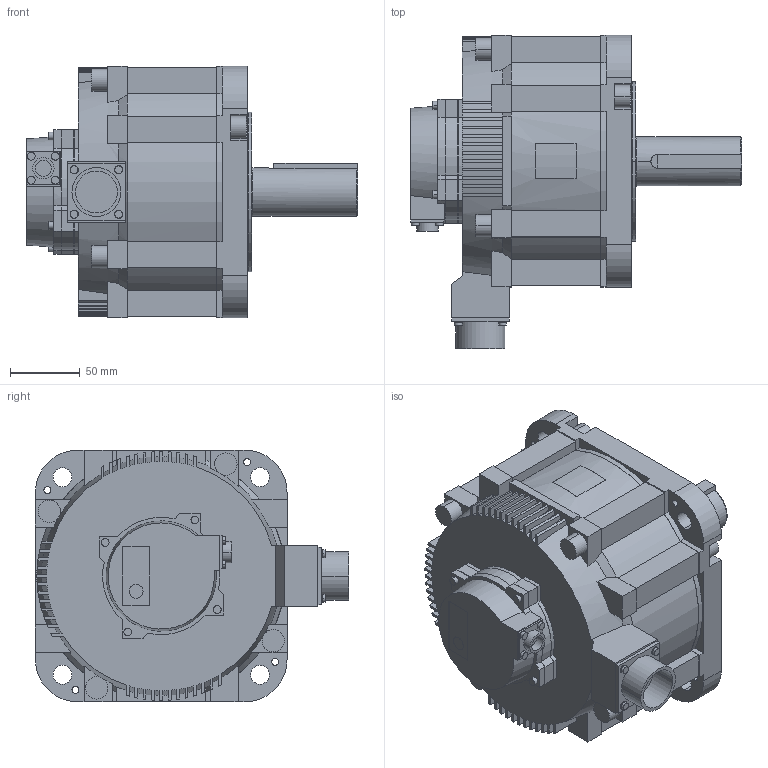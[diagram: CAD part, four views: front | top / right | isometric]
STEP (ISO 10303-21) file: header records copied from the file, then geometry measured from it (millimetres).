
FILE_DESCRIPTION( (''), '2;1');
FILE_NAME ('SGMXG-30AUA61C2.stp','2022-03-02T11:33:40',(''),(''),'spGate 15.6.6','','');
FILE_SCHEMA (('AUTOMOTIVE_DESIGN'));
Length unit declared in the file: millimetre
Products named in the file (3): Assembly; SGMXG-30AUA61C2-prt0; SGMXG-30AUA61C2-prt1
Assembly tree (2 placements, depth 2):
  Assembly
    SGMXG-30AUA61C2-prt0
    SGMXG-30AUA61C2-prt1
Bounding box: 237.2 x 224 x 180 mm (x, y, z)
Volume: 3542292.9 mm3; surface area: 212239.6 mm2
Topology: 2 solids, 2 shells, 593 faces, 1615 edges, 1068 vertices
Faces by surface type: plane 346, cylinder 182, bspline 65
Entity records: 31841 total; most frequent: CARTESIAN_POINT 4222, ORIENTED_EDGE 3230, DIRECTION 3038, COLOUR_RGB 2210, PRESENTATION_STYLE_ASSIGNMENT 2210, STYLED_ITEM 2210, EDGE_CURVE 1615, DRAUGHTING_PRE_DEFINED_CURVE_FONT 1615
